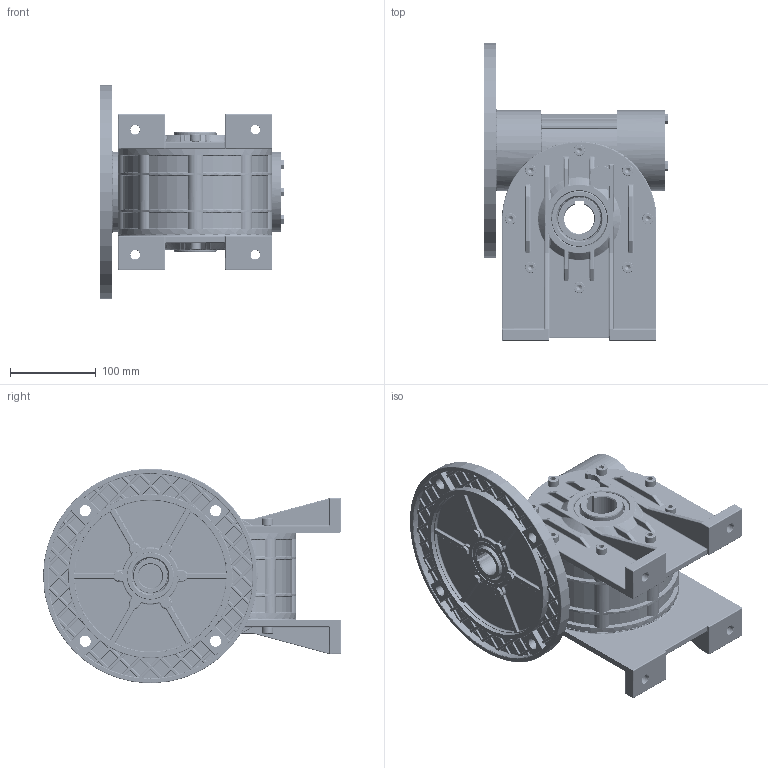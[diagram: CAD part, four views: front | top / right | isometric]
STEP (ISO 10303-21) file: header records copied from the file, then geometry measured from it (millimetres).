
FILE_DESCRIPTION (( 'STEP AP203' ), '1' );
FILE_NAME ('3F002279.STEP', '2012-07-24T05:28:23', ( 'Amministratore' ), ( 'SerteK sas' ), 'SwSTEP 2.0', 'SolidWorks 2009', '' );
FILE_SCHEMA (( 'CONFIG_CONTROL_DESIGN' ));
Length unit declared in the file: millimetre
Products named in the file (1): 3F002279
Bounding box: 215.5 x 347 x 250 mm (x, y, z)
Surface area: 697850.3 mm2 (no closed solid volume)
Topology: 0 solids, 29 shells, 5480 faces, 13827 edges, 8111 vertices
Faces by surface type: bspline 2066, cylinder 2008, plane 946, cone 460
Entity records: 297875 total; most frequent: CARTESIAN_POINT 187529, ORIENTED_EDGE 26778, DIRECTION 17898, EDGE_CURVE 13405, VERTEX_POINT 8109, AXIS2_PLACEMENT_3D 6980, EDGE_LOOP 5708, FACE_OUTER_BOUND 5480
